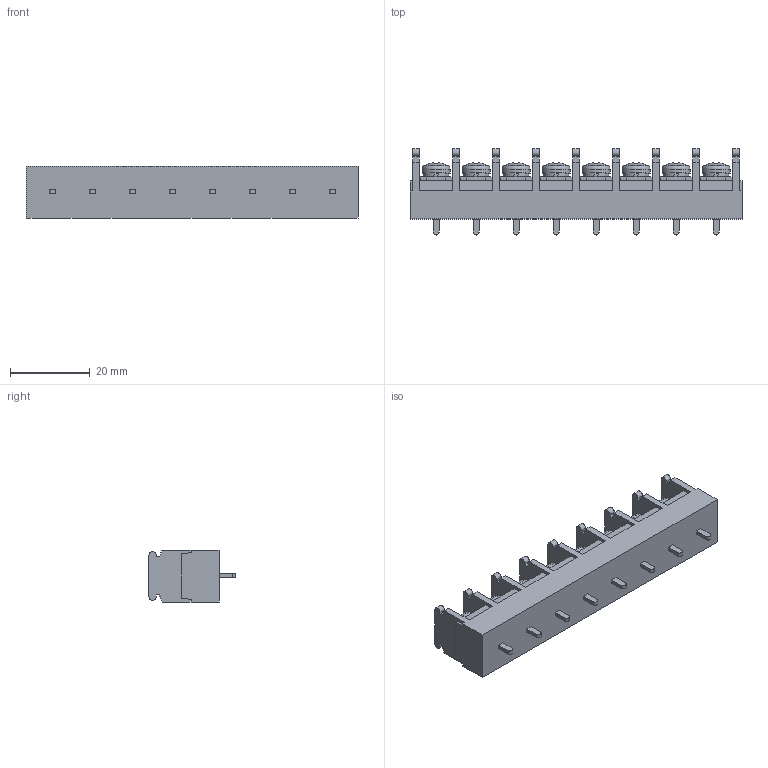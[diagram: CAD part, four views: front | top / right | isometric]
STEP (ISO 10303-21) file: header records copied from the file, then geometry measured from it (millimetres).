
FILE_DESCRIPTION(/* description */ ('Alibre Inc.'),/* implementation_level */ '2;1');
FILE_NAME(/* name */ 'export0',/* time_stamp */ '2015-10-17T19:43:01+09:00',/* author */ (''),/* organization */ (''),/* preprocessor_version */ 'ST-DEVELOPER v14',/* originating_system */ 'Alibre',/* authorisation */ '');
FILE_SCHEMA (('CONFIG_CONTROL_DESIGN'));
Length unit declared in the file: centimetre
Products named in the file (1): ID_1
Bounding box: 83 x 21.5 x 13 mm (x, y, z)
Volume: 12759.1 mm3; surface area: 7230 mm2
Topology: 1 solids, 17 shells, 876 faces, 2338 edges, 1556 vertices
Faces by surface type: plane 674, bspline 104, cylinder 50, cone 32, torus 8, sphere 8
Full cylindrical faces by diameter (mm): 6.5 x8, 7 x8
Entity records: 26673 total; most frequent: CARTESIAN_POINT 5959, ORIENTED_EDGE 4644, DIRECTION 3258, EDGE_CURVE 2322, VECTOR 1750, LINE 1750, VERTEX_POINT 1556, AXIS2_PLACEMENT_3D 1085
